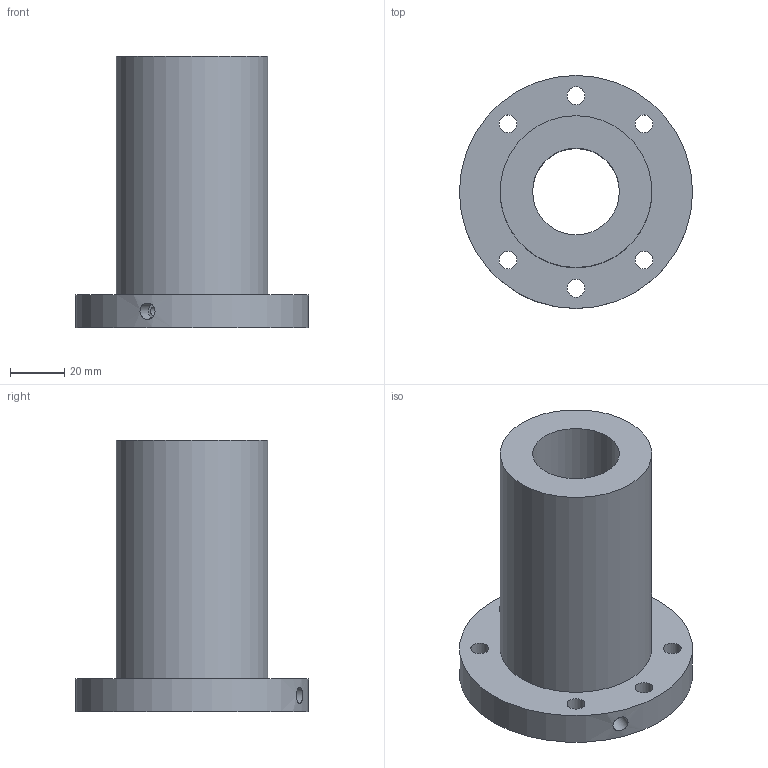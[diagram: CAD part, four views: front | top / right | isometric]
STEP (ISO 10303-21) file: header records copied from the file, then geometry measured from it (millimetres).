
FILE_DESCRIPTION(/* description */ (''),/* implementation_level */ '2;1');
FILE_NAME(/* name */ '32-6K5_3969',/* time_stamp */ '2007-10-15T12:54:00+08:00',/* author */ (''),/* organization */ (''),/* preprocessor_version */ 'ST-DEVELOPER v11',/* originating_system */ 'UGS - NX 5.0',/* authorisation */ '');
FILE_SCHEMA (('CONFIG_CONTROL_DESIGN'));
Length unit declared in the file: millimetre
Products named in the file (1): 32-6K5_3969
Bounding box: 86 x 86 x 100 mm (x, y, z)
Volume: 203098 mm3; surface area: 40232.7 mm2
Topology: 1 solids, 1 shells, 15 faces, 34 edges, 23 vertices
Faces by surface type: cylinder 11, plane 4
Full cylindrical faces by diameter (mm): 4 x1, 6 x1, 6.6 x6, 32 x1, 56 x1, 86 x1
Entity records: 600 total; most frequent: CARTESIAN_POINT 174, DIRECTION 72, FACE_BOUND 44, EDGE_LOOP 44, ORIENTED_EDGE 44, AXIS2_PLACEMENT_3D 36, VERTEX_POINT 22, EDGE_CURVE 22
